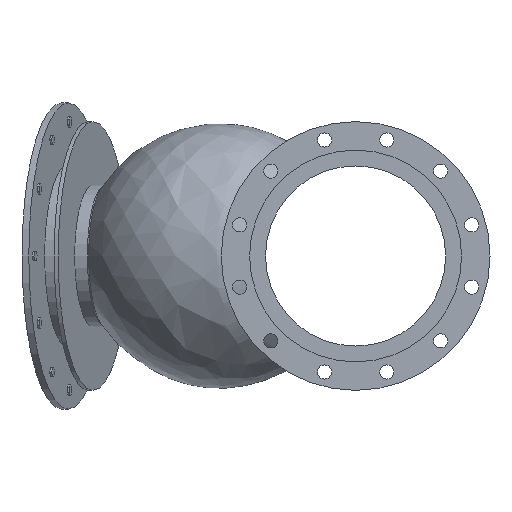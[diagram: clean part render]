
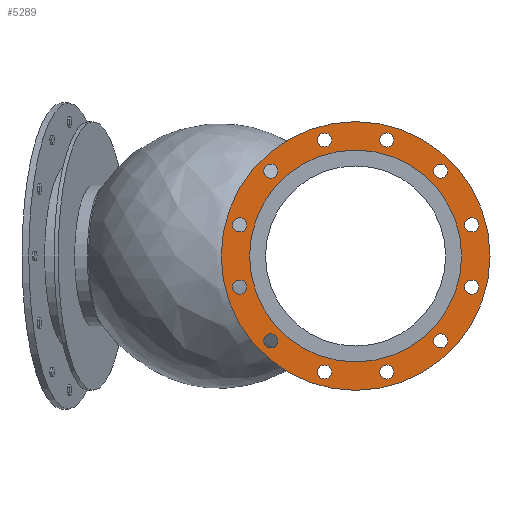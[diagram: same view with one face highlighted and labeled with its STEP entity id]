
A CAD part, left-side view. The second image highlights one B-rep face of the part: STEP entity #5289.
In plain terms, the highlighted planar face has unit normal (-1, 0, 0).
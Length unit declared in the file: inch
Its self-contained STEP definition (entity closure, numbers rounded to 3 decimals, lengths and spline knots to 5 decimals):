
#254=PLANE('',#5675);
#301=FACE_BOUND('',#966,.T.);
#302=FACE_BOUND('',#967,.T.);
#303=FACE_BOUND('',#968,.T.);
#304=FACE_BOUND('',#969,.T.);
#305=FACE_BOUND('',#970,.T.);
#306=FACE_BOUND('',#971,.T.);
#307=FACE_BOUND('',#972,.T.);
#308=FACE_BOUND('',#973,.T.);
#309=FACE_BOUND('',#974,.T.);
#310=FACE_BOUND('',#975,.T.);
#311=FACE_BOUND('',#976,.T.);
#312=FACE_BOUND('',#977,.T.);
#313=FACE_BOUND('',#978,.T.);
#657=FACE_OUTER_BOUND('',#965,.T.);
#965=EDGE_LOOP('',(#4634,#4635));
#966=EDGE_LOOP('',(#4636));
#967=EDGE_LOOP('',(#4637));
#968=EDGE_LOOP('',(#4638));
#969=EDGE_LOOP('',(#4639));
#970=EDGE_LOOP('',(#4640));
#971=EDGE_LOOP('',(#4641));
#972=EDGE_LOOP('',(#4642));
#973=EDGE_LOOP('',(#4643));
#974=EDGE_LOOP('',(#4644));
#975=EDGE_LOOP('',(#4645));
#976=EDGE_LOOP('',(#4646));
#977=EDGE_LOOP('',(#4647));
#978=EDGE_LOOP('',(#4648,#4649));
#2084=CIRCLE('',#5318,0.5);
#2086=CIRCLE('',#5321,0.5);
#2088=CIRCLE('',#5324,0.5);
#2090=CIRCLE('',#5327,0.5);
#2092=CIRCLE('',#5330,0.5);
#2094=CIRCLE('',#5333,0.5);
#2096=CIRCLE('',#5336,0.5);
#2098=CIRCLE('',#5339,0.5);
#2100=CIRCLE('',#5342,0.5);
#2102=CIRCLE('',#5345,0.5);
#2104=CIRCLE('',#5348,0.5);
#2106=CIRCLE('',#5351,0.5);
#2189=CIRCLE('',#5673,7.5);
#2190=CIRCLE('',#5674,7.5);
#2191=CIRCLE('',#5676,9.51);
#2192=CIRCLE('',#5677,9.51);
#2203=VERTEX_POINT('',#7023);
#2205=VERTEX_POINT('',#7029);
#2207=VERTEX_POINT('',#7035);
#2209=VERTEX_POINT('',#7041);
#2211=VERTEX_POINT('',#7047);
#2213=VERTEX_POINT('',#7053);
#2215=VERTEX_POINT('',#7059);
#2217=VERTEX_POINT('',#7065);
#2219=VERTEX_POINT('',#7071);
#2221=VERTEX_POINT('',#7077);
#2223=VERTEX_POINT('',#7083);
#2225=VERTEX_POINT('',#7089);
#2654=VERTEX_POINT('',#9356);
#2655=VERTEX_POINT('',#9357);
#2656=VERTEX_POINT('',#9362);
#2657=VERTEX_POINT('',#9363);
#2668=EDGE_CURVE('',#2203,#2203,#2084,.T.);
#2671=EDGE_CURVE('',#2205,#2205,#2086,.T.);
#2674=EDGE_CURVE('',#2207,#2207,#2088,.T.);
#2677=EDGE_CURVE('',#2209,#2209,#2090,.T.);
#2680=EDGE_CURVE('',#2211,#2211,#2092,.T.);
#2683=EDGE_CURVE('',#2213,#2213,#2094,.T.);
#2686=EDGE_CURVE('',#2215,#2215,#2096,.T.);
#2689=EDGE_CURVE('',#2217,#2217,#2098,.T.);
#2692=EDGE_CURVE('',#2219,#2219,#2100,.T.);
#2695=EDGE_CURVE('',#2221,#2221,#2102,.T.);
#2698=EDGE_CURVE('',#2223,#2223,#2104,.T.);
#2701=EDGE_CURVE('',#2225,#2225,#2106,.T.);
#3334=EDGE_CURVE('',#2654,#2655,#2189,.T.);
#3335=EDGE_CURVE('',#2655,#2654,#2190,.T.);
#3337=EDGE_CURVE('',#2656,#2657,#2191,.T.);
#3338=EDGE_CURVE('',#2657,#2656,#2192,.T.);
#4634=ORIENTED_EDGE('',*,*,#3337,.F.);
#4635=ORIENTED_EDGE('',*,*,#3338,.F.);
#4636=ORIENTED_EDGE('',*,*,#2668,.T.);
#4637=ORIENTED_EDGE('',*,*,#2671,.T.);
#4638=ORIENTED_EDGE('',*,*,#2674,.T.);
#4639=ORIENTED_EDGE('',*,*,#2677,.T.);
#4640=ORIENTED_EDGE('',*,*,#2680,.T.);
#4641=ORIENTED_EDGE('',*,*,#2683,.T.);
#4642=ORIENTED_EDGE('',*,*,#2686,.T.);
#4643=ORIENTED_EDGE('',*,*,#2689,.T.);
#4644=ORIENTED_EDGE('',*,*,#2692,.T.);
#4645=ORIENTED_EDGE('',*,*,#2695,.T.);
#4646=ORIENTED_EDGE('',*,*,#2698,.T.);
#4647=ORIENTED_EDGE('',*,*,#2701,.T.);
#4648=ORIENTED_EDGE('',*,*,#3334,.T.);
#4649=ORIENTED_EDGE('',*,*,#3335,.T.);
#5289=ADVANCED_FACE('',(#657,#301,#302,#303,#304,#305,#306,#307,#308,#309,
#310,#311,#312,#313),#254,.T.);
#5318=AXIS2_PLACEMENT_3D('',#7024,#5712,#5713);
#5321=AXIS2_PLACEMENT_3D('',#7030,#5719,#5720);
#5324=AXIS2_PLACEMENT_3D('',#7036,#5726,#5727);
#5327=AXIS2_PLACEMENT_3D('',#7042,#5733,#5734);
#5330=AXIS2_PLACEMENT_3D('',#7048,#5740,#5741);
#5333=AXIS2_PLACEMENT_3D('',#7054,#5747,#5748);
#5336=AXIS2_PLACEMENT_3D('',#7060,#5754,#5755);
#5339=AXIS2_PLACEMENT_3D('',#7066,#5761,#5762);
#5342=AXIS2_PLACEMENT_3D('',#7072,#5768,#5769);
#5345=AXIS2_PLACEMENT_3D('',#7078,#5775,#5776);
#5348=AXIS2_PLACEMENT_3D('',#7084,#5782,#5783);
#5351=AXIS2_PLACEMENT_3D('',#7090,#5789,#5790);
#5673=AXIS2_PLACEMENT_3D('',#9358,#6947,#6948);
#5674=AXIS2_PLACEMENT_3D('',#9359,#6949,#6950);
#5675=AXIS2_PLACEMENT_3D('',#9361,#6952,#6953);
#5676=AXIS2_PLACEMENT_3D('',#9364,#6954,#6955);
#5677=AXIS2_PLACEMENT_3D('',#9365,#6956,#6957);
#5712=DIRECTION('center_axis',(1.,0.,0.));
#5713=DIRECTION('ref_axis',(0.,0.5,0.866));
#5719=DIRECTION('center_axis',(1.,0.,0.));
#5720=DIRECTION('ref_axis',(0.,0.866,0.5));
#5726=DIRECTION('center_axis',(1.,0.,0.));
#5727=DIRECTION('ref_axis',(0.,1.,0.));
#5733=DIRECTION('center_axis',(1.,0.,0.));
#5734=DIRECTION('ref_axis',(0.,0.866,-0.5));
#5740=DIRECTION('center_axis',(1.,0.,0.));
#5741=DIRECTION('ref_axis',(0.,0.5,-0.866));
#5747=DIRECTION('center_axis',(1.,0.,0.));
#5748=DIRECTION('ref_axis',(0.,0.,-1.));
#5754=DIRECTION('center_axis',(1.,0.,0.));
#5755=DIRECTION('ref_axis',(0.,-0.5,-0.866));
#5761=DIRECTION('center_axis',(1.,0.,0.));
#5762=DIRECTION('ref_axis',(0.,-0.866,-0.5));
#5768=DIRECTION('center_axis',(1.,0.,0.));
#5769=DIRECTION('ref_axis',(0.,-1.,0.));
#5775=DIRECTION('center_axis',(1.,0.,0.));
#5776=DIRECTION('ref_axis',(0.,-0.866,0.5));
#5782=DIRECTION('center_axis',(1.,0.,0.));
#5783=DIRECTION('ref_axis',(0.,-0.5,0.866));
#5789=DIRECTION('center_axis',(1.,0.,0.));
#5790=DIRECTION('ref_axis',(0.,0.,1.));
#6947=DIRECTION('center_axis',(1.,0.,0.));
#6948=DIRECTION('ref_axis',(0.,0.,-1.));
#6949=DIRECTION('center_axis',(1.,0.,0.));
#6950=DIRECTION('ref_axis',(0.,0.,-1.));
#6952=DIRECTION('center_axis',(-1.,0.,0.));
#6953=DIRECTION('ref_axis',(0.,0.,1.));
#6954=DIRECTION('center_axis',(1.,0.,0.));
#6955=DIRECTION('ref_axis',(0.,0.,-1.));
#6956=DIRECTION('center_axis',(1.,0.,0.));
#6957=DIRECTION('ref_axis',(0.,0.,-1.));
#7023=CARTESIAN_POINT('',(-14.21,5.76041,-6.44342));
#7024=CARTESIAN_POINT('Origin',(-14.21,6.01041,-6.01041));
#7029=CARTESIAN_POINT('',(-14.21,1.76695,-8.46037));
#7030=CARTESIAN_POINT('Origin',(-14.21,2.19996,-8.21037));
#7035=CARTESIAN_POINT('',(-14.21,-2.69996,-8.21037));
#7036=CARTESIAN_POINT('Origin',(-14.21,-2.19996,-8.21037));
#7041=CARTESIAN_POINT('',(-14.21,-6.44342,-5.76041));
#7042=CARTESIAN_POINT('Origin',(-14.21,-6.01041,-6.01041));
#7047=CARTESIAN_POINT('',(-14.21,-8.46037,-1.76695));
#7048=CARTESIAN_POINT('Origin',(-14.21,-8.21037,-2.19996));
#7053=CARTESIAN_POINT('',(-14.21,-8.21037,2.69996));
#7054=CARTESIAN_POINT('Origin',(-14.21,-8.21037,2.19996));
#7059=CARTESIAN_POINT('',(-14.21,-5.76041,6.44342));
#7060=CARTESIAN_POINT('Origin',(-14.21,-6.01041,6.01041));
#7065=CARTESIAN_POINT('',(-14.21,-1.76695,8.46037));
#7066=CARTESIAN_POINT('Origin',(-14.21,-2.19996,8.21037));
#7071=CARTESIAN_POINT('',(-14.21,2.69996,8.21037));
#7072=CARTESIAN_POINT('Origin',(-14.21,2.19996,8.21037));
#7077=CARTESIAN_POINT('',(-14.21,6.44342,5.76041));
#7078=CARTESIAN_POINT('Origin',(-14.21,6.01041,6.01041));
#7083=CARTESIAN_POINT('',(-14.21,8.46037,1.76695));
#7084=CARTESIAN_POINT('Origin',(-14.21,8.21037,2.19996));
#7089=CARTESIAN_POINT('',(-14.21,8.21037,-2.69996));
#7090=CARTESIAN_POINT('Origin',(-14.21,8.21037,-2.19996));
#9356=CARTESIAN_POINT('',(-14.21,7.5,0.));
#9357=CARTESIAN_POINT('',(-14.21,-7.5,0.));
#9358=CARTESIAN_POINT('Origin',(-14.21,0.,0.));
#9359=CARTESIAN_POINT('Origin',(-14.21,0.,0.));
#9361=CARTESIAN_POINT('Origin',(-14.21,9.51,0.));
#9362=CARTESIAN_POINT('',(-14.21,9.51,0.));
#9363=CARTESIAN_POINT('',(-14.21,-9.51,0.));
#9364=CARTESIAN_POINT('Origin',(-14.21,0.,0.));
#9365=CARTESIAN_POINT('Origin',(-14.21,0.,0.));
